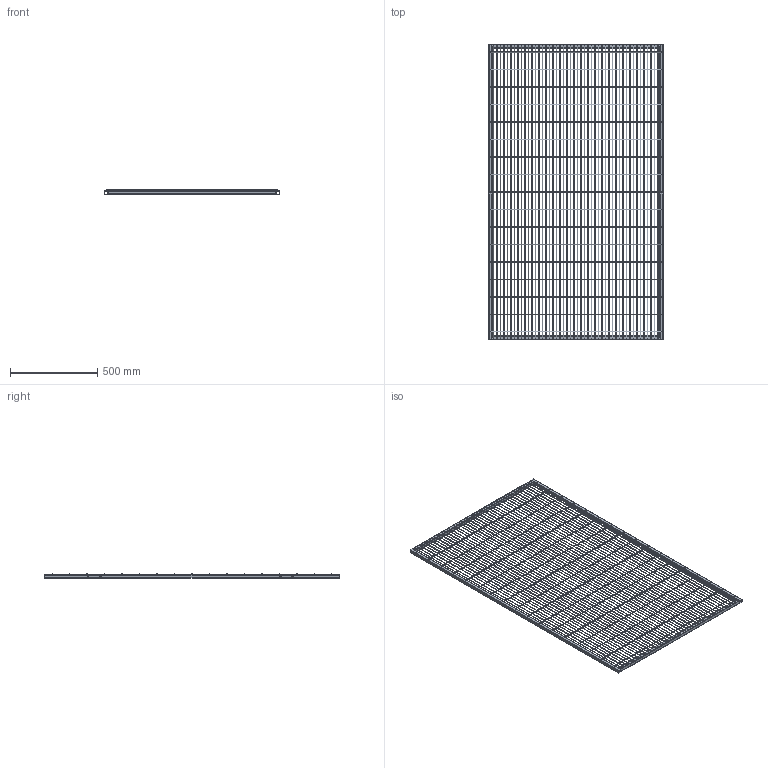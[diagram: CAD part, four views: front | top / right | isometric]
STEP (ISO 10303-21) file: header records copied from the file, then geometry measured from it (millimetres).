
FILE_DESCRIPTION (( 'STEP AP203' ), '1' );
FILE_NAME ('Framed Panel 1000 x 1688.STEP', '2023-09-21T16:27:51', ( '' ), ( '' ), 'SwSTEP 2.0', 'SolidWorks 2023', '' );
FILE_SCHEMA (( 'CONFIG_CONTROL_DESIGN' ));
Length unit declared in the file: millimetre
Products named in the file (1): Framed Panel 1000 x 1688
Bounding box: 1000 x 1688 x 25.96 mm (x, y, z)
Volume: 1256696.2 mm3; surface area: 1677979.3 mm2
Topology: 69 solids, 69 shells, 364 faces, 678 edges, 452 vertices
Faces by surface type: cylinder 194, plane 170
Entity records: 9251 total; most frequent: DIRECTION 1796, CARTESIAN_POINT 1495, ORIENTED_EDGE 1356, AXIS2_PLACEMENT_3D 753, EDGE_CURVE 678, VERTEX_POINT 452, EDGE_LOOP 404, CIRCLE 388
